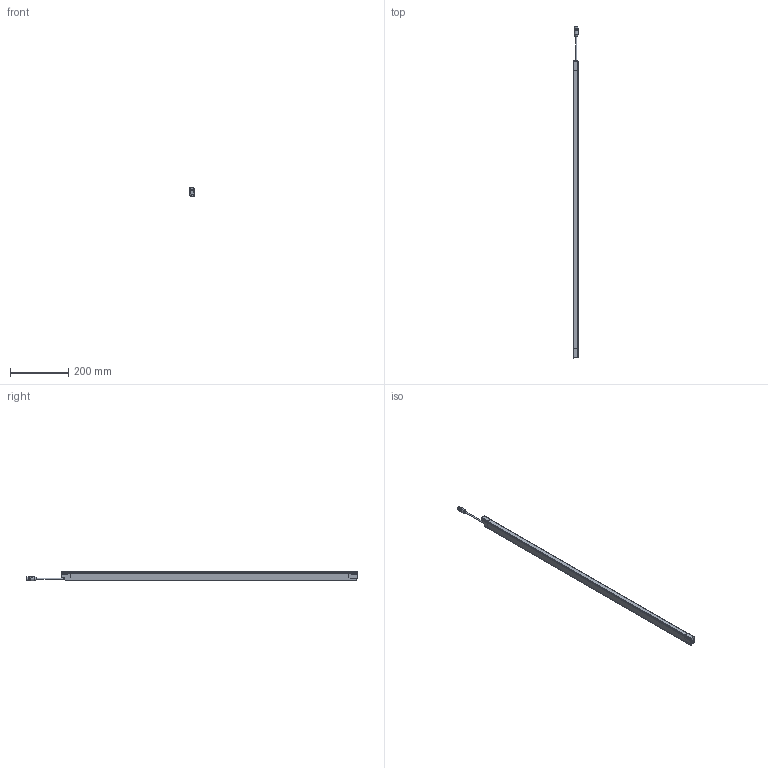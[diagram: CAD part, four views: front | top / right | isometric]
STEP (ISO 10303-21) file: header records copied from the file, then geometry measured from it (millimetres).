
FILE_DESCRIPTION(/* description */ (''),/* implementation_level */ '2;1');
FILE_NAME(/* name */ 'DSD-0649.stp',/* time_stamp */ '2015-02-23T17:49:06+01:00',/* author */ (''),/* organization */ (''),/* preprocessor_version */ 'ST-DEVELOPER v11',/* originating_system */ 'SIEMENS PLM Software NX 7.5',/* authorisation */ '');
FILE_SCHEMA (('AUTOMOTIVE_DESIGN { 1 0 10303 214 1 1 1 1 }'));
Length unit declared in the file: millimetre
Products named in the file (1): AP008171_00
Bounding box: 17.36 x 1140.24 x 33.46 mm (x, y, z)
Surface area: 121643.4 mm2 (no closed solid volume)
Topology: 0 solids, 49 shells, 1026 faces, 3399 edges, 2313 vertices
Faces by surface type: cylinder 389, plane 307, bspline 127, torus 109, sphere 61, cone 33
Full cylindrical faces by diameter (mm): 1 x5, 1.2 x2, 2.6 x6, 4 x1, 8.3 x1, 9.4 x1, 10.4 x1, 12 x1, 13 x1, 13.5 x1, 14.5 x2
Entity records: 42422 total; most frequent: CARTESIAN_POINT 13512, DIRECTION 6230, ORIENTED_EDGE 5251, EDGE_CURVE 3285, AXIS2_PLACEMENT_3D 2359, VERTEX_POINT 2282, LINE 1512, VECTOR 1512
